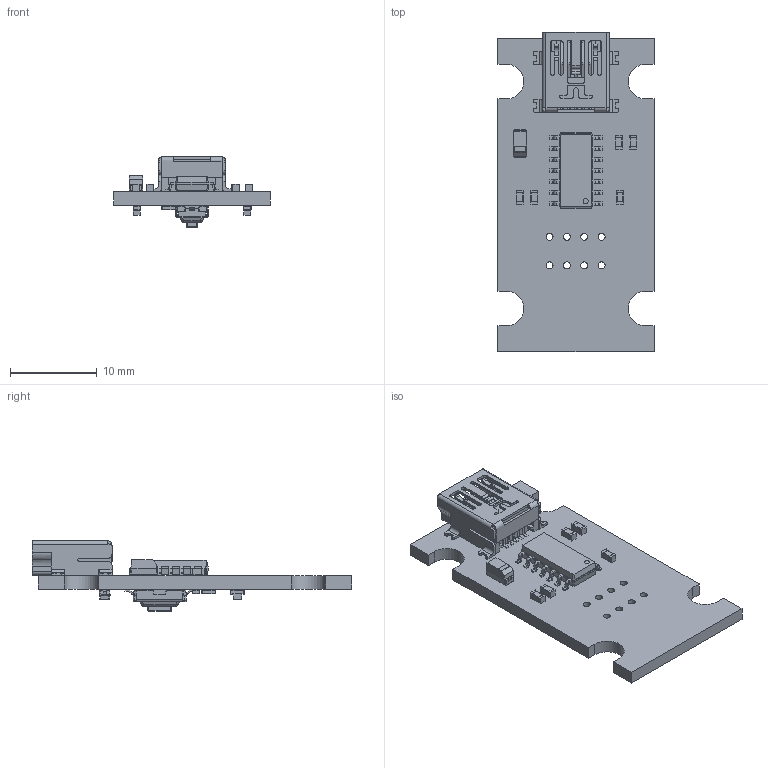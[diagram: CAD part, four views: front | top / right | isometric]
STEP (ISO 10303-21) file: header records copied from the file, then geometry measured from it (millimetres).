
FILE_DESCRIPTION(('KiCad electronic assembly'),'2;1');
FILE_NAME('avr32du14-4.step','2026-10-20T06:12:02',('Pcbnew'),('Kicad'), 'Open CASCADE STEP processor 7.9','KiCad to STEP converter','Unknown' );
FILE_SCHEMA(('AUTOMOTIVE_DESIGN { 1 0 10303 214 1 1 1 1 }'));
Length unit declared in the file: millimetre
Products named in the file (18): avr32du14-4 1; CP_EIA-3216-18_Kemet-A; CP_EIA_3216_18_Kemet_A; SOIC-14_3.9x8.7mm_P1.27mm; USB_Mini-B_Lumberg_2486_01_Horizontal; C_0603_1608Metric; R_0603_1608Metric; LED_0603_1608Metric; D_SOD-323; SW_Tactile_SPST_NO_Straight_CK_PTS636Sx25SMTRLFS; PTS636Sx25SMTRLFS; avrAE3F_PCB
Assembly tree (24 placements, depth 3):
  avr32du14-4 1
    CP_EIA-3216-18_Kemet-A
      CP_EIA_3216_18_Kemet_A
    SOIC-14_3.9x8.7mm_P1.27mm
      SOIC-14_3.9x8.7mm_P1.27mm
    USB_Mini-B_Lumberg_2486_01_Horizontal
      USB_Mini-B_Lumberg_2486_01_Horizontal
    C_0603_1608Metric  x5
      C_0603_1608Metric
    R_0603_1608Metric  x3
      R_0603_1608Metric
    LED_0603_1608Metric  x2
      LED_0603_1608Metric
    D_SOD-323
      D_SOD-323
    SW_Tactile_SPST_NO_Straight_CK_PTS636Sx25SMTRLFS
      PTS636Sx25SMTRLFS
    avrAE3F_PCB
Bounding box: 18 x 36.84 x 8.18 mm (x, y, z)
Volume: 1182 mm3; surface area: 2444 mm2
Topology: 20 solids, 20 shells, 1395 faces, 3834 edges, 2466 vertices
Faces by surface type: plane 925, cylinder 407, bspline 53, sphere 8, torus 2
Full cylindrical faces by diameter (mm): 0.8 x10, 0.9 x2
Entity records: 47825 total; most frequent: CARTESIAN_POINT 8325, ORIENTED_EDGE 6538, DIRECTION 6164, EDGE_CURVE 3269, LINE 2480, VECTOR 2480, VERTEX_POINT 2100, AXIS2_PLACEMENT_3D 1842
